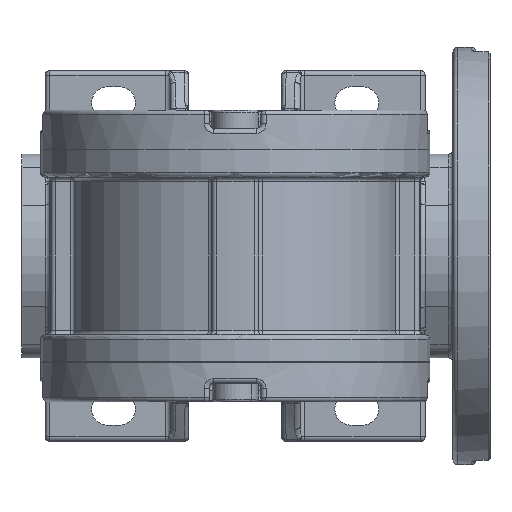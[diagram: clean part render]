
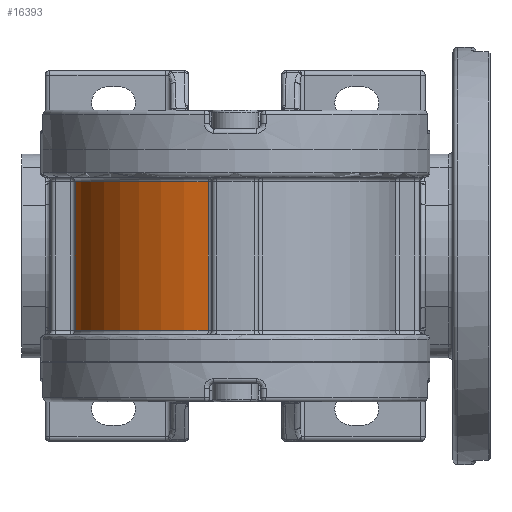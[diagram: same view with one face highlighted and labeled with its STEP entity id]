
A CAD part, front view. The second image highlights one B-rep face of the part: STEP entity #16393.
In plain terms, the highlighted cylindrical face has radius 35 mm (diameter 70 mm), a partial arc.
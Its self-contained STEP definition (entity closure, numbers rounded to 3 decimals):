
#16376 = EDGE_CURVE ( 'NONE', #16404, #16397, #82791, .T. ) ;
#16393 = ADVANCED_FACE ( 'NONE', ( #82841 ), #82964, .T. ) ;
#16394 = EDGE_LOOP ( 'NONE', ( #16395, #16399, #16402, #16405 ) ) ;
#16395 = ORIENTED_EDGE ( 'NONE', *, *, #16396, .T. ) ;
#16396 = EDGE_CURVE ( 'NONE', #16397, #16398, #82965, .T. ) ;
#16397 = VERTEX_POINT ( 'NONE', #82951 ) ;
#16398 = VERTEX_POINT ( 'NONE', #82950 ) ;
#16399 = ORIENTED_EDGE ( 'NONE', *, *, #16400, .T. ) ;
#16400 = EDGE_CURVE ( 'NONE', #16398, #16401, #82945, .T. ) ;
#16401 = VERTEX_POINT ( 'NONE', #82939 ) ;
#16402 = ORIENTED_EDGE ( 'NONE', *, *, #16403, .T. ) ;
#16403 = EDGE_CURVE ( 'NONE', #16401, #16404, #82934, .T. ) ;
#16404 = VERTEX_POINT ( 'NONE', #82929 ) ;
#16405 = ORIENTED_EDGE ( 'NONE', *, *, #16376, .T. ) ;
#82784 = DIRECTION ( 'NONE',  ( 1., 0., 0. ) ) ;
#82786 = DIRECTION ( 'NONE',  ( 0., 0., -1. ) ) ;
#82789 = CARTESIAN_POINT ( 'NONE',  ( 0., -30., 16. ) ) ;
#82790 = AXIS2_PLACEMENT_3D ( 'NONE', #82789, #82786, #82784 ) ;
#82791 = CIRCLE ( 'NONE', #82790, 35. ) ;
#82841 = FACE_OUTER_BOUND ( 'NONE', #16394, .T. ) ;
#82929 = CARTESIAN_POINT ( 'NONE',  ( -5.833, -64.51, 16. ) ) ;
#82930 = DIRECTION ( 'NONE',  ( 0., 0., 1. ) ) ;
#82931 = VECTOR ( 'NONE', #82930, 1000. ) ;
#82932 = CARTESIAN_POINT ( 'NONE',  ( -5.833, -64.51, -17. ) ) ;
#82934 = LINE ( 'NONE', #82932, #82931 ) ;
#82939 = CARTESIAN_POINT ( 'NONE',  ( -5.833, -64.51, -16. ) ) ;
#82940 = DIRECTION ( 'NONE',  ( 1., 0., 0. ) ) ;
#82941 = DIRECTION ( 'NONE',  ( 0., 0., 1. ) ) ;
#82942 = CARTESIAN_POINT ( 'NONE',  ( 0., -30., -16. ) ) ;
#82943 = AXIS2_PLACEMENT_3D ( 'NONE', #82942, #82941, #82940 ) ;
#82945 = CIRCLE ( 'NONE', #82943, 35. ) ;
#82950 = CARTESIAN_POINT ( 'NONE',  ( -34.51, -35.833, -16. ) ) ;
#82951 = CARTESIAN_POINT ( 'NONE',  ( -34.51, -35.833, 16. ) ) ;
#82952 = DIRECTION ( 'NONE',  ( 0., 0., -1. ) ) ;
#82953 = VECTOR ( 'NONE', #82952, 1000. ) ;
#82955 = CARTESIAN_POINT ( 'NONE',  ( -34.51, -35.833, -17. ) ) ;
#82960 = DIRECTION ( 'NONE',  ( 1., 0., 0. ) ) ;
#82961 = DIRECTION ( 'NONE',  ( 0., 0., 1. ) ) ;
#82962 = CARTESIAN_POINT ( 'NONE',  ( 0., -30., -17. ) ) ;
#82963 = AXIS2_PLACEMENT_3D ( 'NONE', #82962, #82961, #82960 ) ;
#82964 = CYLINDRICAL_SURFACE ( 'NONE', #82963, 35. ) ;
#82965 = LINE ( 'NONE', #82955, #82953 ) ;
